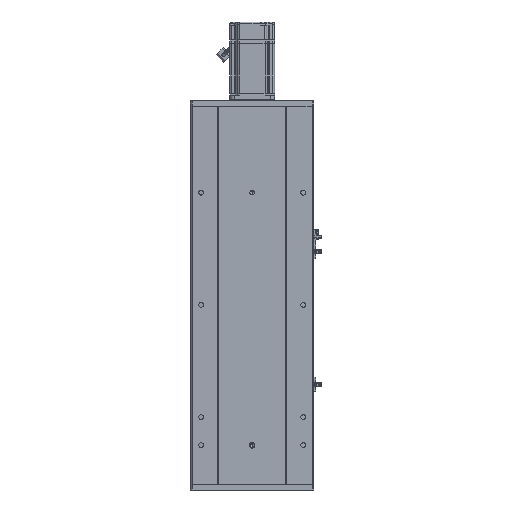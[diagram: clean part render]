
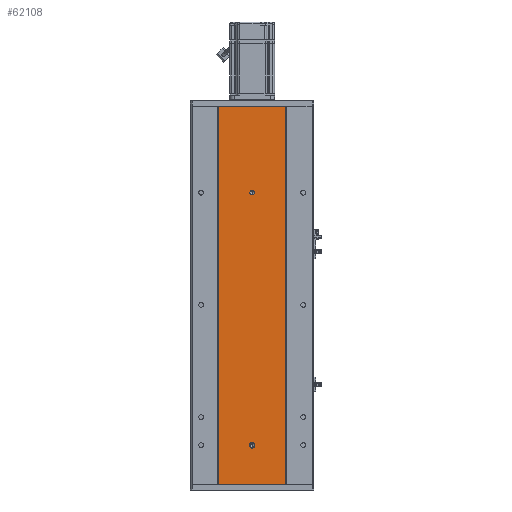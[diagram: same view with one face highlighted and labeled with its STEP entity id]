
A CAD part, front view. The second image highlights one B-rep face of the part: STEP entity #62108.
In plain terms, the highlighted planar face has unit normal (0, -1, 0).
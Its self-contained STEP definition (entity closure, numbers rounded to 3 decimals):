
#21 = EDGE_LOOP ( 'NONE', ( #35365, #57307, #23844, #50328 ) ) ;
#232 = LINE ( 'NONE', #34890, #43727 ) ;
#810 = DIRECTION ( 'NONE',  ( 0., -1., 0. ) ) ;
#1611 = VERTEX_POINT ( 'NONE', #42983 ) ;
#2061 = EDGE_CURVE ( 'NONE', #53561, #32428, #39180, .T. ) ;
#2934 = CARTESIAN_POINT ( 'NONE',  ( -60., 0., 674. ) ) ;
#4287 = CARTESIAN_POINT ( 'NONE',  ( -4., 0., 71.5 ) ) ;
#5400 = ORIENTED_EDGE ( 'NONE', *, *, #43126, .F. ) ;
#7275 = CARTESIAN_POINT ( 'NONE',  ( 0., 0., 520. ) ) ;
#10330 = AXIS2_PLACEMENT_3D ( 'NONE', #65414, #14039, #19778 ) ;
#10789 = VERTEX_POINT ( 'NONE', #26906 ) ;
#11083 = EDGE_CURVE ( 'NONE', #10789, #53561, #33605, .T. ) ;
#12152 = EDGE_CURVE ( 'NONE', #1611, #43359, #232, .T. ) ;
#13787 = VECTOR ( 'NONE', #42975, 1000. ) ;
#13954 = AXIS2_PLACEMENT_3D ( 'NONE', #31127, #45516, #26250 ) ;
#13995 = ORIENTED_EDGE ( 'NONE', *, *, #57461, .F. ) ;
#14039 = DIRECTION ( 'NONE',  ( 0., -1., 0. ) ) ;
#14720 = VECTOR ( 'NONE', #65014, 1000. ) ;
#14772 = CARTESIAN_POINT ( 'NONE',  ( 0., 0., 516. ) ) ;
#15125 = EDGE_CURVE ( 'NONE', #47890, #1611, #40676, .T. ) ;
#16298 = EDGE_CURVE ( 'NONE', #36444, #57005, #23114, .T. ) ;
#18189 = DIRECTION ( 'NONE',  ( 0., 0., -1. ) ) ;
#19133 = PLANE ( 'NONE',  #41448 ) ;
#19778 = DIRECTION ( 'NONE',  ( 0., 0., -1. ) ) ;
#19902 = FACE_BOUND ( 'NONE', #34430, .T. ) ;
#20236 = LINE ( 'NONE', #24046, #14720 ) ;
#20337 = CARTESIAN_POINT ( 'NONE',  ( 60., 0., 0. ) ) ;
#20759 = EDGE_CURVE ( 'NONE', #64047, #51951, #20236, .T. ) ;
#21457 = EDGE_CURVE ( 'NONE', #47890, #65032, #56735, .T. ) ;
#22961 = EDGE_LOOP ( 'NONE', ( #49894, #13995, #51600, #27803, #58308 ) ) ;
#23114 = CIRCLE ( 'NONE', #32430, 4. ) ;
#23844 = ORIENTED_EDGE ( 'NONE', *, *, #15125, .F. ) ;
#24046 = CARTESIAN_POINT ( 'NONE',  ( -4., 0., 71.5 ) ) ;
#24204 = CARTESIAN_POINT ( 'NONE',  ( -60., 0., 674. ) ) ;
#26250 = DIRECTION ( 'NONE',  ( 0., 0., -1. ) ) ;
#26906 = CARTESIAN_POINT ( 'NONE',  ( 0., 0., 64.5 ) ) ;
#27803 = ORIENTED_EDGE ( 'NONE', *, *, #11083, .F. ) ;
#27849 = FACE_BOUND ( 'NONE', #22961, .T. ) ;
#30831 = CARTESIAN_POINT ( 'NONE',  ( 0., 0., 68.5 ) ) ;
#31127 = CARTESIAN_POINT ( 'NONE',  ( 0., 0., 68.5 ) ) ;
#32428 = VERTEX_POINT ( 'NONE', #39591 ) ;
#32430 = AXIS2_PLACEMENT_3D ( 'NONE', #7275, #42613, #52766 ) ;
#33605 = CIRCLE ( 'NONE', #44563, 4. ) ;
#34430 = EDGE_LOOP ( 'NONE', ( #5400, #44875 ) ) ;
#34890 = CARTESIAN_POINT ( 'NONE',  ( 60., 0., 674. ) ) ;
#35098 = CARTESIAN_POINT ( 'NONE',  ( 4., 0., 68.5 ) ) ;
#35365 = ORIENTED_EDGE ( 'NONE', *, *, #64702, .T. ) ;
#36444 = VERTEX_POINT ( 'NONE', #54855 ) ;
#37969 = CARTESIAN_POINT ( 'NONE',  ( -60., 0., 0. ) ) ;
#38097 = DIRECTION ( 'NONE',  ( 0., -1., 0. ) ) ;
#38739 = CARTESIAN_POINT ( 'NONE',  ( -60., 0., 674. ) ) ;
#39180 = LINE ( 'NONE', #47595, #58204 ) ;
#39591 = CARTESIAN_POINT ( 'NONE',  ( 4., 0., 71.5 ) ) ;
#40079 = CIRCLE ( 'NONE', #58099, 4. ) ;
#40647 = DIRECTION ( 'NONE',  ( 1., 0., 0. ) ) ;
#40676 = LINE ( 'NONE', #38739, #13787 ) ;
#40896 = CIRCLE ( 'NONE', #10330, 4. ) ;
#41448 = AXIS2_PLACEMENT_3D ( 'NONE', #24204, #53851, #59426 ) ;
#42613 = DIRECTION ( 'NONE',  ( 0., -1., 0. ) ) ;
#42975 = DIRECTION ( 'NONE',  ( 1., 0., 0. ) ) ;
#42983 = CARTESIAN_POINT ( 'NONE',  ( 60., 0., 674. ) ) ;
#43126 = EDGE_CURVE ( 'NONE', #57005, #36444, #40079, .T. ) ;
#43359 = VERTEX_POINT ( 'NONE', #20337 ) ;
#43572 = CIRCLE ( 'NONE', #13954, 4. ) ;
#43727 = VECTOR ( 'NONE', #55215, 1000. ) ;
#44563 = AXIS2_PLACEMENT_3D ( 'NONE', #30831, #810, #61405 ) ;
#44875 = ORIENTED_EDGE ( 'NONE', *, *, #16298, .F. ) ;
#45516 = DIRECTION ( 'NONE',  ( 0., -1., 0. ) ) ;
#47595 = CARTESIAN_POINT ( 'NONE',  ( 4., 0., 71.5 ) ) ;
#47890 = VERTEX_POINT ( 'NONE', #54350 ) ;
#48491 = CARTESIAN_POINT ( 'NONE',  ( 0., 0., 520. ) ) ;
#49894 = ORIENTED_EDGE ( 'NONE', *, *, #20759, .F. ) ;
#49980 = FACE_OUTER_BOUND ( 'NONE', #21, .T. ) ;
#50328 = ORIENTED_EDGE ( 'NONE', *, *, #21457, .T. ) ;
#50469 = VECTOR ( 'NONE', #40647, 1000. ) ;
#51600 = ORIENTED_EDGE ( 'NONE', *, *, #2061, .F. ) ;
#51951 = VERTEX_POINT ( 'NONE', #56911 ) ;
#52635 = DIRECTION ( 'NONE',  ( 0., 0., 1. ) ) ;
#52766 = DIRECTION ( 'NONE',  ( 0., 0., -1. ) ) ;
#53303 = DIRECTION ( 'NONE',  ( 0., 0., -1. ) ) ;
#53561 = VERTEX_POINT ( 'NONE', #35098 ) ;
#53851 = DIRECTION ( 'NONE',  ( 0., 1., 0. ) ) ;
#54350 = CARTESIAN_POINT ( 'NONE',  ( -60., 0., 674. ) ) ;
#54855 = CARTESIAN_POINT ( 'NONE',  ( 0., 0., 524. ) ) ;
#55215 = DIRECTION ( 'NONE',  ( 0., 0., -1. ) ) ;
#56144 = CARTESIAN_POINT ( 'NONE',  ( -60., 0., 0. ) ) ;
#56735 = LINE ( 'NONE', #2934, #59954 ) ;
#56911 = CARTESIAN_POINT ( 'NONE',  ( -4., 0., 68.5 ) ) ;
#57005 = VERTEX_POINT ( 'NONE', #14772 ) ;
#57307 = ORIENTED_EDGE ( 'NONE', *, *, #12152, .F. ) ;
#57461 = EDGE_CURVE ( 'NONE', #32428, #64047, #40896, .T. ) ;
#58099 = AXIS2_PLACEMENT_3D ( 'NONE', #48491, #38097, #18189 ) ;
#58204 = VECTOR ( 'NONE', #52635, 1000. ) ;
#58308 = ORIENTED_EDGE ( 'NONE', *, *, #63103, .F. ) ;
#59426 = DIRECTION ( 'NONE',  ( 0., 0., 1. ) ) ;
#59954 = VECTOR ( 'NONE', #53303, 1000. ) ;
#61405 = DIRECTION ( 'NONE',  ( 0., 0., -1. ) ) ;
#62108 = ADVANCED_FACE ( 'NONE', ( #19902, #27849, #49980 ), #19133, .F. ) ;
#63103 = EDGE_CURVE ( 'NONE', #51951, #10789, #43572, .T. ) ;
#64047 = VERTEX_POINT ( 'NONE', #4287 ) ;
#64702 = EDGE_CURVE ( 'NONE', #65032, #43359, #65610, .T. ) ;
#65014 = DIRECTION ( 'NONE',  ( 0., 0., -1. ) ) ;
#65032 = VERTEX_POINT ( 'NONE', #37969 ) ;
#65414 = CARTESIAN_POINT ( 'NONE',  ( 0., 0., 71.5 ) ) ;
#65610 = LINE ( 'NONE', #56144, #50469 ) ;
